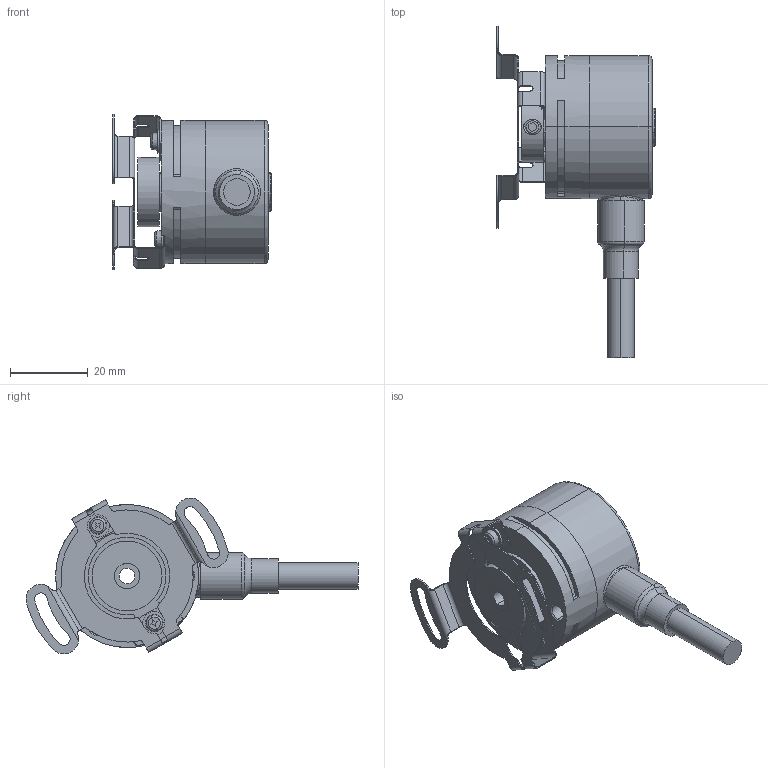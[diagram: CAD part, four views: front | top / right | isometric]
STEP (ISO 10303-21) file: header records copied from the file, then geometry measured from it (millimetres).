
FILE_DESCRIPTION (( 'STEP AP214' ), '1' );
FILE_NAME ('3720.51X1.XXXX.STEP', '2008-11-28T06:35:22', ( 'admin' ), ( 'Fritz Kübler GmbH' ), 'SwSTEP 2.0', 'SolidWorks 2008', '' );
FILE_SCHEMA (( 'AUTOMOTIVE_DESIGN' ));
Length unit declared in the file: millimetre
Products named in the file (1): 3720.51X1.XXXX
Bounding box: 40.7 x 85.4 x 40.1 mm (x, y, z)
Volume: 16828 mm3; surface area: 20780.8 mm2
Topology: 13 solids, 13 shells, 716 faces, 1760 edges, 1092 vertices
Faces by surface type: cylinder 324, plane 203, torus 94, cone 41, bspline 29, sphere 25
Entity records: 30799 total; most frequent: CARTESIAN_POINT 5691, DIRECTION 3807, ORIENTED_EDGE 3474, EDGE_CURVE 1737, AXIS2_PLACEMENT_3D 1556, VERTEX_POINT 1082, CIRCLE 868, EDGE_LOOP 783
